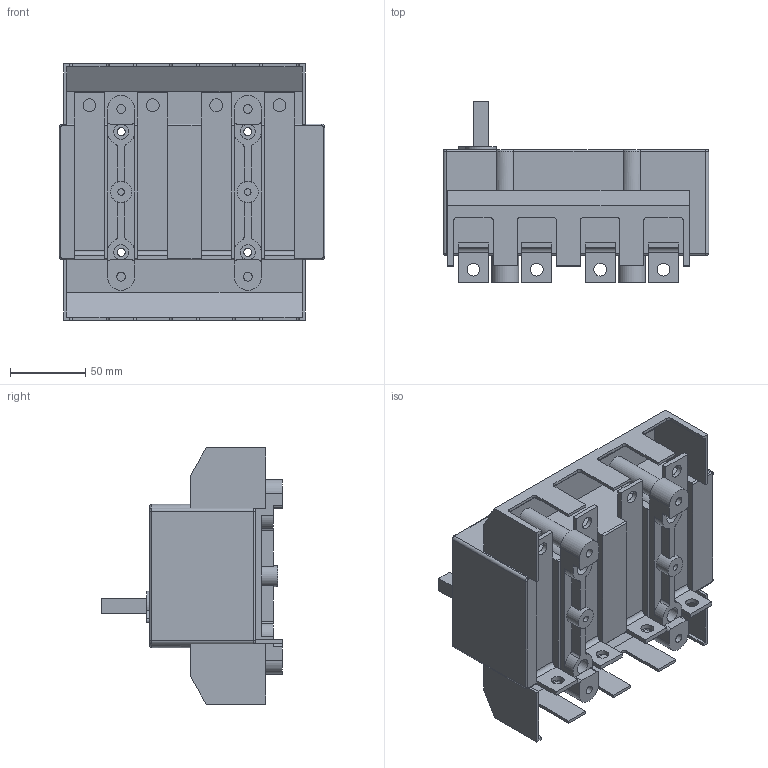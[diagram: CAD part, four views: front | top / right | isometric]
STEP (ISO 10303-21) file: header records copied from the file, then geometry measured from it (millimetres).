
FILE_DESCRIPTION(/* description */ (''),/* implementation_level */ '2;1');
FILE_NAME(/* name */ 'RA160 P3 NB z oslona zaciskow.stp',/* time_stamp */ '2021-08-17T14:30:30+02:00',/* author */ (''),/* organization */ (''),/* preprocessor_version */ 'ST-DEVELOPER v18.1',/* originating_system */ 'SIEMENS PLM Software NX 1965',/* authorisation */ '');
FILE_SCHEMA (('AUTOMOTIVE_DESIGN { 1 0 10303 214 3 1 1 1 }'));
Length unit declared in the file: millimetre
Products named in the file (1): RA160 P3 NB z oslona zaciskow_stp
Bounding box: 176 x 120 x 169.8 mm (x, y, z)
Volume: 1202148.4 mm3; surface area: 159469.1 mm2
Topology: 1 solids, 1 shells, 316 faces, 902 edges, 586 vertices
Faces by surface type: plane 178, cylinder 126, torus 7, bspline 5
Full cylindrical faces by diameter (mm): 4.3 x2, 5.3 x4, 5.8 x4, 8.5 x8, 10 x12, 13 x4, 14 x2
Entity records: 10179 total; most frequent: CARTESIAN_POINT 1888, DIRECTION 1732, ORIENTED_EDGE 1692, EDGE_CURVE 846, AXIS2_PLACEMENT_3D 590, VERTEX_POINT 566, LINE 552, VECTOR 552
